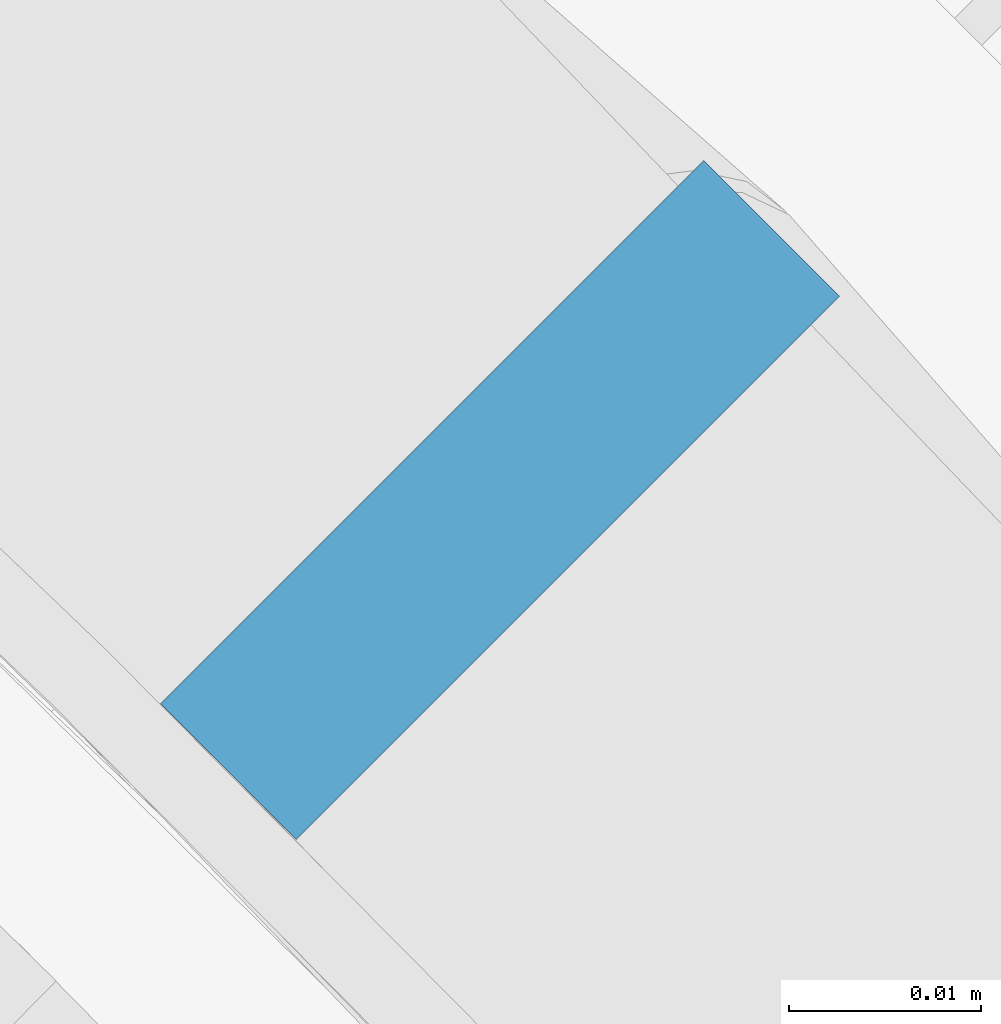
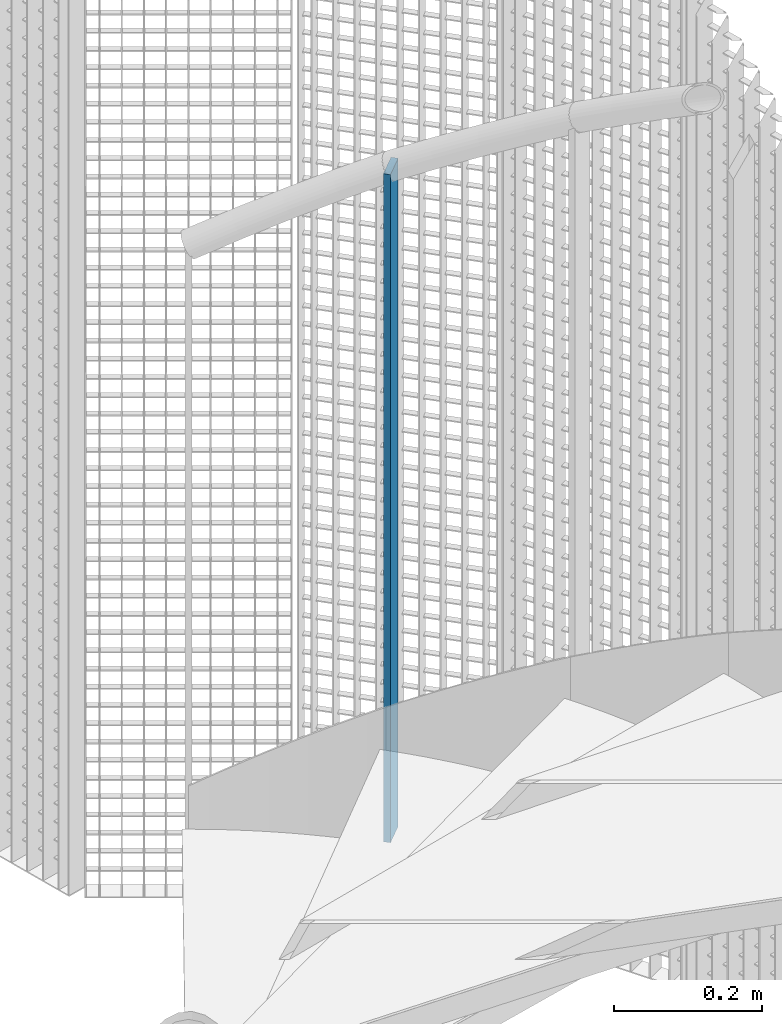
# One storey, part 49 of 1148: 1 column, 1 element without a shape of its own.
"""IFC2X3 building model written with IfcOpenShell, lengths in millimetres."""

from ifc_helpers import new_model, si_unit, frame, origin_with_axes, origin_2d_with_axis, place, context, subcontext, project, spatial, rectangle, extrude, material, type_object, element, aggregate, save


model = new_model("IFC2X3")

# Units and contexts
model_context = context("Model", 3, precision=1e-05, world=origin_with_axes())
body_context = subcontext(model_context, "Body", "Model", "MODEL_VIEW")
ifc_project = project(units=[si_unit("LENGTHUNIT", "METRE", prefix="MILLI"), si_unit("AREAUNIT", "SQUARE_METRE"), si_unit("VOLUMEUNIT", "CUBIC_METRE"), si_unit("MASSUNIT", "GRAM", prefix="KILO"), si_unit("TIMEUNIT", "SECOND"), si_unit("PLANEANGLEUNIT", "RADIAN"), si_unit("SOLIDANGLEUNIT", "STERADIAN"), si_unit("THERMODYNAMICTEMPERATUREUNIT", "DEGREE_CELSIUS"), si_unit("LUMINOUSINTENSITYUNIT", "LUMEN")], contexts=[model_context])

# Site, building, storey
site_placement = place(None, origin_with_axes())
site = spatial("IfcSite", under=ifc_project, at=site_placement, Name="Undefined", CompositionType="ELEMENT")
building_placement = place(site_placement, origin_with_axes())
building = spatial("IfcBuilding", under=site, at=building_placement, Name="Undefined", CompositionType="ELEMENT")
storey_placement = place(building_placement, origin_with_axes())
storey = spatial("IfcBuildingStorey", under=building, at=storey_placement, Name="Undefined", CompositionType="ELEMENT", Elevation=0.0)

# Assembly, column
assembly_placement = place(storey_placement, origin_with_axes())
assembly = element("IfcElementAssembly", 1, at=assembly_placement, inside=storey, Name="MONTANT", AssemblyPlace="NOTDEFINED", PredefinedType="NOTDEFINED")
ifc_material = material(Name="STEEL/S235JR")
column_type = type_object("IfcColumnType", Name="PL10*40", PredefinedType="NOTDEFINED")
column_placement = place(assembly_placement, frame((22345.2905473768, 745.290547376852, 154.52), z_axis=(0.0, 0.0, 1.0), x_axis=(-0.70710678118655, -0.707106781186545, 0.0)))
column = element("IfcColumn", 2, at=column_placement, type_object=column_type, material=ifc_material, Name="MONTANT", context=body_context, shape_type="SweptSolid", body=[
    extrude(rectangle(XDim=10.0, YDim=40.0, at=origin_2d_with_axis()), frame((0.0, 0.0, 1100.0), z_axis=(0.0, 0.0, -1.0), x_axis=(0.0, 1.0, 0.0)), (0.0, 0.0, 1.0), 1100.0),
])
aggregate(assembly, [column])

save(model, "model.ifc")
